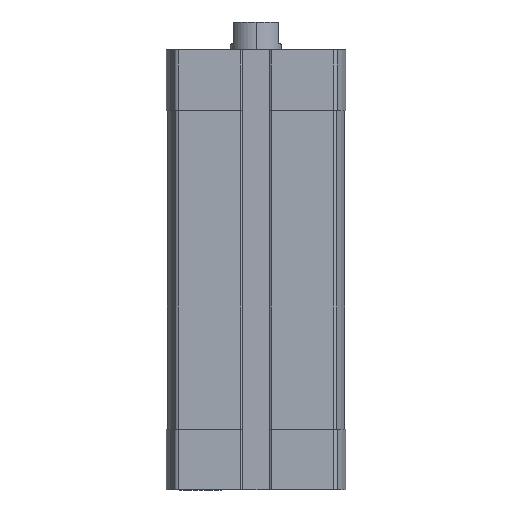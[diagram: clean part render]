
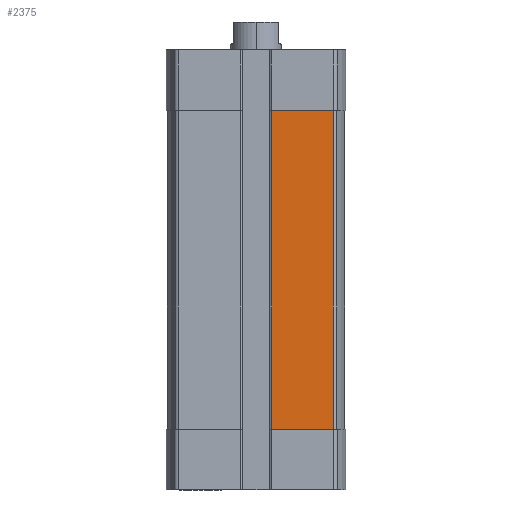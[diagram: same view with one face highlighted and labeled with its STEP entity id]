
A CAD part, left-side view. The second image highlights one B-rep face of the part: STEP entity #2375.
In plain terms, the highlighted planar face has unit normal (-1, 0, 0).
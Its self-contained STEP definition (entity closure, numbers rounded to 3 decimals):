
#194 = LINE ( 'NONE', #3693, #5574 ) ;
#654 = CARTESIAN_POINT ( 'NONE',  ( -17.5, -3.1, -75. ) ) ;
#670 = DIRECTION ( 'NONE',  ( 0., -1., 0. ) ) ;
#1101 = VERTEX_POINT ( 'NONE', #7782 ) ;
#1359 = CARTESIAN_POINT ( 'NONE',  ( -17.5, 0., -12. ) ) ;
#1676 = EDGE_CURVE ( 'NONE', #1101, #11143, #194, .T. ) ;
#2310 = ORIENTED_EDGE ( 'NONE', *, *, #7736, .F. ) ;
#2375 = ADVANCED_FACE ( 'NONE', ( #3326 ), #8751, .T. ) ;
#2545 = LINE ( 'NONE', #10376, #10339 ) ;
#2707 = VECTOR ( 'NONE', #10487, 1000. ) ;
#2917 = ORIENTED_EDGE ( 'NONE', *, *, #4867, .T. ) ;
#3326 = FACE_OUTER_BOUND ( 'NONE', #11444, .T. ) ;
#3689 = DIRECTION ( 'NONE',  ( 0., 0., 1. ) ) ;
#3693 = CARTESIAN_POINT ( 'NONE',  ( -17.5, -15.253, -75. ) ) ;
#4399 = VERTEX_POINT ( 'NONE', #654 ) ;
#4410 = LINE ( 'NONE', #5728, #12166 ) ;
#4748 = ORIENTED_EDGE ( 'NONE', *, *, #6958, .T. ) ;
#4867 = EDGE_CURVE ( 'NONE', #4399, #1101, #4410, .T. ) ;
#5336 = CARTESIAN_POINT ( 'NONE',  ( -17.5, -15.253, -12. ) ) ;
#5450 = LINE ( 'NONE', #1359, #2707 ) ;
#5454 = VERTEX_POINT ( 'NONE', #11032 ) ;
#5574 = VECTOR ( 'NONE', #12733, 1000. ) ;
#5663 = ORIENTED_EDGE ( 'NONE', *, *, #1676, .T. ) ;
#5728 = CARTESIAN_POINT ( 'NONE',  ( -17.5, -3.1, -75. ) ) ;
#6958 = EDGE_CURVE ( 'NONE', #11143, #5454, #5450, .T. ) ;
#7736 = EDGE_CURVE ( 'NONE', #4399, #5454, #2545, .T. ) ;
#7782 = CARTESIAN_POINT ( 'NONE',  ( -17.5, -15.253, -75. ) ) ;
#8751 = PLANE ( 'NONE',  #12077 ) ;
#9763 = DIRECTION ( 'NONE',  ( -1., 0., 0. ) ) ;
#10339 = VECTOR ( 'NONE', #12355, 1000. ) ;
#10376 = CARTESIAN_POINT ( 'NONE',  ( -17.5, -3.1, -75. ) ) ;
#10487 = DIRECTION ( 'NONE',  ( 0., 1., 0. ) ) ;
#11032 = CARTESIAN_POINT ( 'NONE',  ( -17.5, -3.1, -12. ) ) ;
#11143 = VERTEX_POINT ( 'NONE', #5336 ) ;
#11444 = EDGE_LOOP ( 'NONE', ( #2917, #5663, #4748, #2310 ) ) ;
#12077 = AXIS2_PLACEMENT_3D ( 'NONE', #12774, #9763, #3689 ) ;
#12166 = VECTOR ( 'NONE', #670, 1000. ) ;
#12355 = DIRECTION ( 'NONE',  ( 0., 0., 1. ) ) ;
#12733 = DIRECTION ( 'NONE',  ( 0., 0., 1. ) ) ;
#12774 = CARTESIAN_POINT ( 'NONE',  ( -17.5, -3.1, -75. ) ) ;
